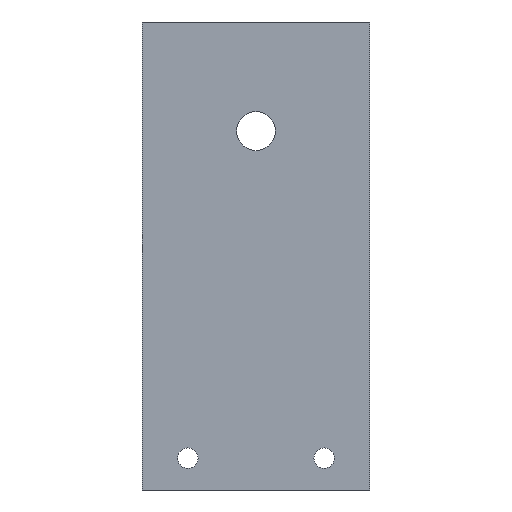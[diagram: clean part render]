
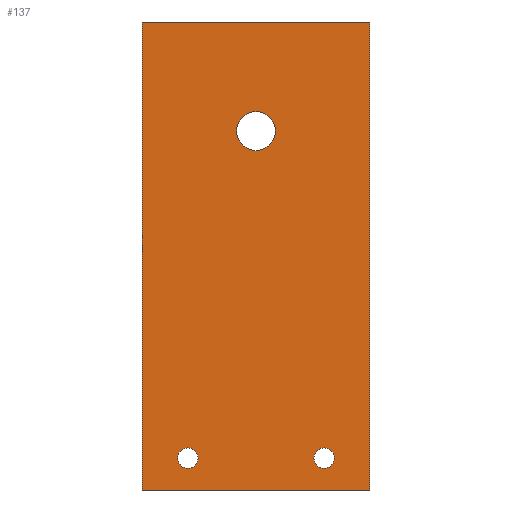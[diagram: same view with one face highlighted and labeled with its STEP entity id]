
A CAD part, front view. The second image highlights one B-rep face of the part: STEP entity #137.
In plain terms, the highlighted planar face has unit normal (0, -1, 0).
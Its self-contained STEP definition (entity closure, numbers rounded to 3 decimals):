
#21 = EDGE_CURVE('',#22,#24,#26,.T.);
#22 = VERTEX_POINT('',#23);
#23 = CARTESIAN_POINT('',(-25.,0.,-79.));
#24 = VERTEX_POINT('',#25);
#25 = CARTESIAN_POINT('',(-25.,0.,24.));
#26 = SURFACE_CURVE('',#27,(#31,#43),.PCURVE_S1.);
#27 = LINE('',#28,#29);
#28 = CARTESIAN_POINT('',(-25.,0.,-79.));
#29 = VECTOR('',#30,1.);
#30 = DIRECTION('',(0.,0.,1.));
#31 = PCURVE('',#32,#37);
#32 = PLANE('',#33);
#33 = AXIS2_PLACEMENT_3D('',#34,#35,#36);
#34 = CARTESIAN_POINT('',(-25.,0.,-79.));
#35 = DIRECTION('',(1.,0.,0.));
#36 = DIRECTION('',(0.,0.,1.));
#37 = DEFINITIONAL_REPRESENTATION('',(#38),#42);
#38 = LINE('',#39,#40);
#39 = CARTESIAN_POINT('',(0.,0.));
#40 = VECTOR('',#41,1.);
#41 = DIRECTION('',(1.,0.));
#42 = ( GEOMETRIC_REPRESENTATION_CONTEXT(2) 
PARAMETRIC_REPRESENTATION_CONTEXT() REPRESENTATION_CONTEXT('2D SPACE',''
  ) );
#43 = PCURVE('',#44,#49);
#44 = PLANE('',#45);
#45 = AXIS2_PLACEMENT_3D('',#46,#47,#48);
#46 = CARTESIAN_POINT('',(-25.,0.,-79.));
#47 = DIRECTION('',(0.,1.,0.));
#48 = DIRECTION('',(0.,0.,1.));
#49 = DEFINITIONAL_REPRESENTATION('',(#50),#54);
#50 = LINE('',#51,#52);
#51 = CARTESIAN_POINT('',(0.,0.));
#52 = VECTOR('',#53,1.);
#53 = DIRECTION('',(1.,0.));
#54 = ( GEOMETRIC_REPRESENTATION_CONTEXT(2) 
PARAMETRIC_REPRESENTATION_CONTEXT() REPRESENTATION_CONTEXT('2D SPACE',''
  ) );
#72 = PLANE('',#73);
#73 = AXIS2_PLACEMENT_3D('',#74,#75,#76);
#74 = CARTESIAN_POINT('',(-25.,0.,-79.));
#75 = DIRECTION('',(0.,0.,1.));
#76 = DIRECTION('',(1.,0.,0.));
#126 = PLANE('',#127);
#127 = AXIS2_PLACEMENT_3D('',#128,#129,#130);
#128 = CARTESIAN_POINT('',(-25.,0.,24.));
#129 = DIRECTION('',(0.,0.,1.));
#130 = DIRECTION('',(1.,0.,0.));
#137 = ADVANCED_FACE('',(#138,#213,#244,#275),#44,.F.);
#138 = FACE_BOUND('',#139,.F.);
#139 = EDGE_LOOP('',(#140,#163,#164,#187));
#140 = ORIENTED_EDGE('',*,*,#141,.F.);
#141 = EDGE_CURVE('',#22,#142,#144,.T.);
#142 = VERTEX_POINT('',#143);
#143 = CARTESIAN_POINT('',(25.,0.,-79.));
#144 = SURFACE_CURVE('',#145,(#149,#156),.PCURVE_S1.);
#145 = LINE('',#146,#147);
#146 = CARTESIAN_POINT('',(-25.,0.,-79.));
#147 = VECTOR('',#148,1.);
#148 = DIRECTION('',(1.,0.,0.));
#149 = PCURVE('',#44,#150);
#150 = DEFINITIONAL_REPRESENTATION('',(#151),#155);
#151 = LINE('',#152,#153);
#152 = CARTESIAN_POINT('',(0.,0.));
#153 = VECTOR('',#154,1.);
#154 = DIRECTION('',(0.,1.));
#155 = ( GEOMETRIC_REPRESENTATION_CONTEXT(2) 
PARAMETRIC_REPRESENTATION_CONTEXT() REPRESENTATION_CONTEXT('2D SPACE',''
  ) );
#156 = PCURVE('',#72,#157);
#157 = DEFINITIONAL_REPRESENTATION('',(#158),#162);
#158 = LINE('',#159,#160);
#159 = CARTESIAN_POINT('',(0.,0.));
#160 = VECTOR('',#161,1.);
#161 = DIRECTION('',(1.,0.));
#162 = ( GEOMETRIC_REPRESENTATION_CONTEXT(2) 
PARAMETRIC_REPRESENTATION_CONTEXT() REPRESENTATION_CONTEXT('2D SPACE',''
  ) );
#163 = ORIENTED_EDGE('',*,*,#21,.T.);
#164 = ORIENTED_EDGE('',*,*,#165,.T.);
#165 = EDGE_CURVE('',#24,#166,#168,.T.);
#166 = VERTEX_POINT('',#167);
#167 = CARTESIAN_POINT('',(25.,0.,24.));
#168 = SURFACE_CURVE('',#169,(#173,#180),.PCURVE_S1.);
#169 = LINE('',#170,#171);
#170 = CARTESIAN_POINT('',(-25.,0.,24.));
#171 = VECTOR('',#172,1.);
#172 = DIRECTION('',(1.,0.,0.));
#173 = PCURVE('',#44,#174);
#174 = DEFINITIONAL_REPRESENTATION('',(#175),#179);
#175 = LINE('',#176,#177);
#176 = CARTESIAN_POINT('',(103.,0.));
#177 = VECTOR('',#178,1.);
#178 = DIRECTION('',(0.,1.));
#179 = ( GEOMETRIC_REPRESENTATION_CONTEXT(2) 
PARAMETRIC_REPRESENTATION_CONTEXT() REPRESENTATION_CONTEXT('2D SPACE',''
  ) );
#180 = PCURVE('',#126,#181);
#181 = DEFINITIONAL_REPRESENTATION('',(#182),#186);
#182 = LINE('',#183,#184);
#183 = CARTESIAN_POINT('',(0.,0.));
#184 = VECTOR('',#185,1.);
#185 = DIRECTION('',(1.,0.));
#186 = ( GEOMETRIC_REPRESENTATION_CONTEXT(2) 
PARAMETRIC_REPRESENTATION_CONTEXT() REPRESENTATION_CONTEXT('2D SPACE',''
  ) );
#187 = ORIENTED_EDGE('',*,*,#188,.F.);
#188 = EDGE_CURVE('',#142,#166,#189,.T.);
#189 = SURFACE_CURVE('',#190,(#194,#201),.PCURVE_S1.);
#190 = LINE('',#191,#192);
#191 = CARTESIAN_POINT('',(25.,0.,-79.));
#192 = VECTOR('',#193,1.);
#193 = DIRECTION('',(0.,0.,1.));
#194 = PCURVE('',#44,#195);
#195 = DEFINITIONAL_REPRESENTATION('',(#196),#200);
#196 = LINE('',#197,#198);
#197 = CARTESIAN_POINT('',(0.,50.));
#198 = VECTOR('',#199,1.);
#199 = DIRECTION('',(1.,0.));
#200 = ( GEOMETRIC_REPRESENTATION_CONTEXT(2) 
PARAMETRIC_REPRESENTATION_CONTEXT() REPRESENTATION_CONTEXT('2D SPACE',''
  ) );
#201 = PCURVE('',#202,#207);
#202 = PLANE('',#203);
#203 = AXIS2_PLACEMENT_3D('',#204,#205,#206);
#204 = CARTESIAN_POINT('',(25.,0.,-79.));
#205 = DIRECTION('',(1.,0.,0.));
#206 = DIRECTION('',(0.,0.,1.));
#207 = DEFINITIONAL_REPRESENTATION('',(#208),#212);
#208 = LINE('',#209,#210);
#209 = CARTESIAN_POINT('',(0.,0.));
#210 = VECTOR('',#211,1.);
#211 = DIRECTION('',(1.,0.));
#212 = ( GEOMETRIC_REPRESENTATION_CONTEXT(2) 
PARAMETRIC_REPRESENTATION_CONTEXT() REPRESENTATION_CONTEXT('2D SPACE',''
  ) );
#213 = FACE_BOUND('',#214,.F.);
#214 = EDGE_LOOP('',(#215));
#215 = ORIENTED_EDGE('',*,*,#216,.F.);
#216 = EDGE_CURVE('',#217,#217,#219,.T.);
#217 = VERTEX_POINT('',#218);
#218 = CARTESIAN_POINT('',(-15.,0.,-69.75));
#219 = SURFACE_CURVE('',#220,(#225,#232),.PCURVE_S1.);
#220 = CIRCLE('',#221,2.25);
#221 = AXIS2_PLACEMENT_3D('',#222,#223,#224);
#222 = CARTESIAN_POINT('',(-15.,0.,-72.));
#223 = DIRECTION('',(0.,1.,0.));
#224 = DIRECTION('',(0.,-0.,1.));
#225 = PCURVE('',#44,#226);
#226 = DEFINITIONAL_REPRESENTATION('',(#227),#231);
#227 = CIRCLE('',#228,2.25);
#228 = AXIS2_PLACEMENT_2D('',#229,#230);
#229 = CARTESIAN_POINT('',(7.,10.));
#230 = DIRECTION('',(1.,0.));
#231 = ( GEOMETRIC_REPRESENTATION_CONTEXT(2) 
PARAMETRIC_REPRESENTATION_CONTEXT() REPRESENTATION_CONTEXT('2D SPACE',''
  ) );
#232 = PCURVE('',#233,#238);
#233 = CYLINDRICAL_SURFACE('',#234,2.25);
#234 = AXIS2_PLACEMENT_3D('',#235,#236,#237);
#235 = CARTESIAN_POINT('',(-15.,-1.,-72.));
#236 = DIRECTION('',(0.,1.,0.));
#237 = DIRECTION('',(0.,-0.,1.));
#238 = DEFINITIONAL_REPRESENTATION('',(#239),#243);
#239 = LINE('',#240,#241);
#240 = CARTESIAN_POINT('',(0.,1.));
#241 = VECTOR('',#242,1.);
#242 = DIRECTION('',(1.,0.));
#243 = ( GEOMETRIC_REPRESENTATION_CONTEXT(2) 
PARAMETRIC_REPRESENTATION_CONTEXT() REPRESENTATION_CONTEXT('2D SPACE',''
  ) );
#244 = FACE_BOUND('',#245,.F.);
#245 = EDGE_LOOP('',(#246));
#246 = ORIENTED_EDGE('',*,*,#247,.F.);
#247 = EDGE_CURVE('',#248,#248,#250,.T.);
#248 = VERTEX_POINT('',#249);
#249 = CARTESIAN_POINT('',(15.,0.,-69.75));
#250 = SURFACE_CURVE('',#251,(#256,#263),.PCURVE_S1.);
#251 = CIRCLE('',#252,2.25);
#252 = AXIS2_PLACEMENT_3D('',#253,#254,#255);
#253 = CARTESIAN_POINT('',(15.,0.,-72.));
#254 = DIRECTION('',(0.,1.,0.));
#255 = DIRECTION('',(0.,-0.,1.));
#256 = PCURVE('',#44,#257);
#257 = DEFINITIONAL_REPRESENTATION('',(#258),#262);
#258 = CIRCLE('',#259,2.25);
#259 = AXIS2_PLACEMENT_2D('',#260,#261);
#260 = CARTESIAN_POINT('',(7.,40.));
#261 = DIRECTION('',(1.,0.));
#262 = ( GEOMETRIC_REPRESENTATION_CONTEXT(2) 
PARAMETRIC_REPRESENTATION_CONTEXT() REPRESENTATION_CONTEXT('2D SPACE',''
  ) );
#263 = PCURVE('',#264,#269);
#264 = CYLINDRICAL_SURFACE('',#265,2.25);
#265 = AXIS2_PLACEMENT_3D('',#266,#267,#268);
#266 = CARTESIAN_POINT('',(15.,-1.,-72.));
#267 = DIRECTION('',(0.,1.,0.));
#268 = DIRECTION('',(0.,-0.,1.));
#269 = DEFINITIONAL_REPRESENTATION('',(#270),#274);
#270 = LINE('',#271,#272);
#271 = CARTESIAN_POINT('',(0.,1.));
#272 = VECTOR('',#273,1.);
#273 = DIRECTION('',(1.,0.));
#274 = ( GEOMETRIC_REPRESENTATION_CONTEXT(2) 
PARAMETRIC_REPRESENTATION_CONTEXT() REPRESENTATION_CONTEXT('2D SPACE',''
  ) );
#275 = FACE_BOUND('',#276,.F.);
#276 = EDGE_LOOP('',(#277));
#277 = ORIENTED_EDGE('',*,*,#278,.F.);
#278 = EDGE_CURVE('',#279,#279,#281,.T.);
#279 = VERTEX_POINT('',#280);
#280 = CARTESIAN_POINT('',(0.,0.,4.3));
#281 = SURFACE_CURVE('',#282,(#287,#294),.PCURVE_S1.);
#282 = CIRCLE('',#283,4.3);
#283 = AXIS2_PLACEMENT_3D('',#284,#285,#286);
#284 = CARTESIAN_POINT('',(0.,0.,0.));
#285 = DIRECTION('',(0.,1.,0.));
#286 = DIRECTION('',(0.,-0.,1.));
#287 = PCURVE('',#44,#288);
#288 = DEFINITIONAL_REPRESENTATION('',(#289),#293);
#289 = CIRCLE('',#290,4.3);
#290 = AXIS2_PLACEMENT_2D('',#291,#292);
#291 = CARTESIAN_POINT('',(79.,25.));
#292 = DIRECTION('',(1.,0.));
#293 = ( GEOMETRIC_REPRESENTATION_CONTEXT(2) 
PARAMETRIC_REPRESENTATION_CONTEXT() REPRESENTATION_CONTEXT('2D SPACE',''
  ) );
#294 = PCURVE('',#295,#300);
#295 = CYLINDRICAL_SURFACE('',#296,4.3);
#296 = AXIS2_PLACEMENT_3D('',#297,#298,#299);
#297 = CARTESIAN_POINT('',(0.,-1.,0.));
#298 = DIRECTION('',(0.,1.,0.));
#299 = DIRECTION('',(0.,-0.,1.));
#300 = DEFINITIONAL_REPRESENTATION('',(#301),#305);
#301 = LINE('',#302,#303);
#302 = CARTESIAN_POINT('',(0.,1.));
#303 = VECTOR('',#304,1.);
#304 = DIRECTION('',(1.,0.));
#305 = ( GEOMETRIC_REPRESENTATION_CONTEXT(2) 
PARAMETRIC_REPRESENTATION_CONTEXT() REPRESENTATION_CONTEXT('2D SPACE',''
  ) );
